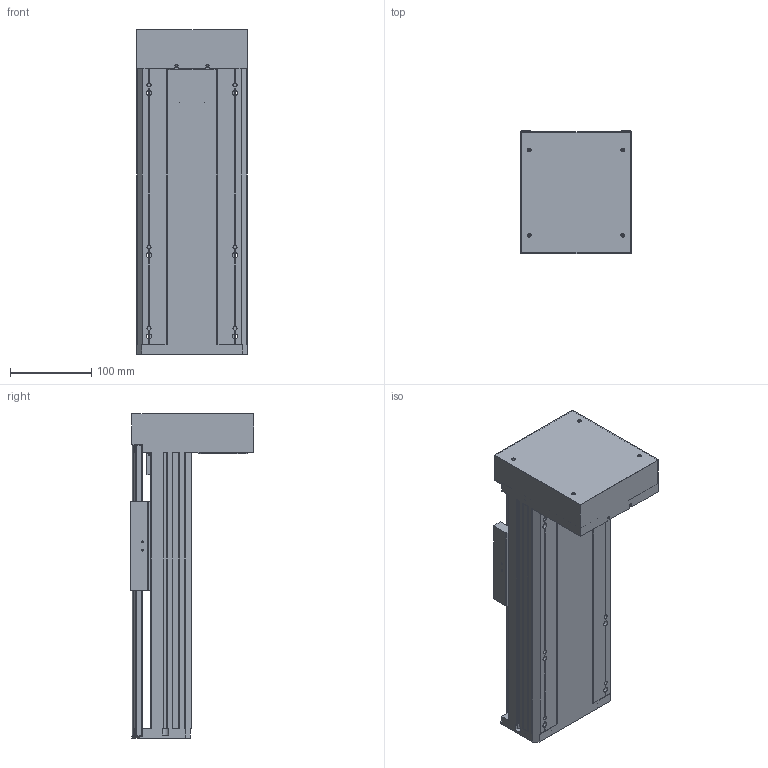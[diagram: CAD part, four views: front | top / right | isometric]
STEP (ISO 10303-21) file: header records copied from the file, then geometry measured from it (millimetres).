
FILE_DESCRIPTION(/* description */ (''),/* implementation_level */ '2;1');
FILE_NAME(/* name */ 'TKA136-FD-150_asm1.stp',/* time_stamp */ '2016-05-07T09:11:53+08:00',/* author */ (''),/* organization */ (''),/* preprocessor_version */ 'ST-DEVELOPER v15',/* originating_system */ 'SIEMENS PLM Software NX 8.5',/* authorisation */ '');
FILE_SCHEMA (('AUTOMOTIVE_DESIGN { 1 0 10303 214 3 1 1 1 }'));
Length unit declared in the file: millimetre
Products named in the file (3): 100-02; 100-01; TKA136-FD-150_asm1
Assembly tree (2 placements, depth 2):
  TKA136-FD-150_asm1
    100-01
    100-02
Bounding box: 136 x 152 x 400 mm (x, y, z)
Volume: 1566520.4 mm3; surface area: 605954.1 mm2
Topology: 2 solids, 13 shells, 896 faces, 2445 edges, 1573 vertices
Faces by surface type: plane 418, cylinder 413, cone 65
Full cylindrical faces by diameter (mm): 3 x2, 3.3 x13, 4 x4, 4.2 x8, 4.5 x14, 5 x6, 5.5 x26, 6.6 x10, 8 x12, 10 x9, 10.5 x6, 11 x4, 11.6 x1, 12 x9, 15 x3, 16 x5, 17 x1, 24 x5, 26 x1, 28 x1, 46 x1, 50 x2
Entity records: 29466 total; most frequent: CARTESIAN_POINT 7406, DIRECTION 4660, ORIENTED_EDGE 4310, EDGE_CURVE 2155, AXIS2_PLACEMENT_3D 1759, VERTEX_POINT 1496, EDGE_LOOP 1256, LINE 1142
